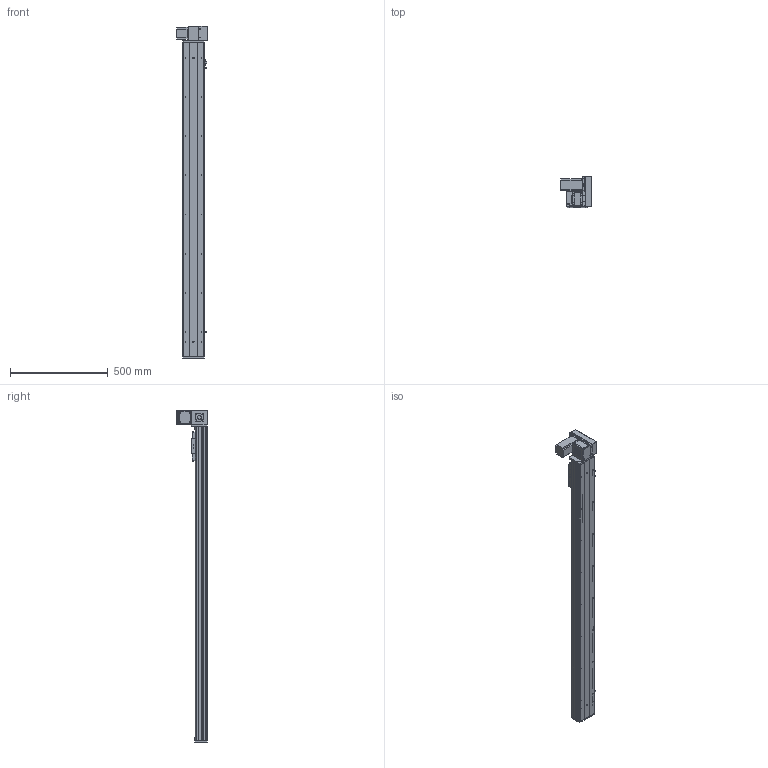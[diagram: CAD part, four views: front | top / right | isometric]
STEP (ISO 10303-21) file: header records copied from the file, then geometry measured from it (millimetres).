
FILE_DESCRIPTION (( 'STEP AP203' ), '1' );
FILE_NAME ('Y10CB-D90-S1350-UR-P400W.STEP', '2020-02-16T03:45:58', ( '微软用户' ), ( '微软中国' ), 'SwSTEP 2.0', 'SolidWorks 2017', '' );
FILE_SCHEMA (( 'CONFIG_CONTROL_DESIGN' ));
Length unit declared in the file: millimetre
Products named in the file (18): 10CB9-掛极; Y10B-々湍喘謫眊楊擘啣--; 10CB-耜裔; 0B-萇儂楊擘啣; Y135C-陔俋离換覜結え-; san松下电机400不带刹车----; Y100-135俋离換覜ん--; 0B-源倛裔啣; Y10B--々湍喘謫眊--666; Y10CB-D90-S1350-UR-P400W; 0B-埴倛裔啣; Y10B-耜蚾蟀諉啣----; 10CB-詩湍-; 00B-俋欶BM--; Y10CB- 掛极耜裔啣-毀---; 0CB-雄赽釱---; Y10C---詩湍揤啣; 0Cb-俋欶---
Assembly tree (21 placements, depth 2):
  Y10CB-D90-S1350-UR-P400W
    0CB-雄赽釱---
    0Cb-俋欶---
    Y10B-々湍喘謫眊楊擘啣--
    0B-萇儂楊擘啣
    san松下电机400不带刹车----
    0B-源倛裔啣
    0B-埴倛裔啣
    10CB-詩湍-
    Y10CB- 掛极耜裔啣-毀---  x2
    Y10C---詩湍揤啣  x2
    10CB9-掛极
    10CB-耜裔
    Y135C-陔俋离換覜結え-
    Y100-135俋离換覜ん--  x3
    Y10B--々湍喘謫眊--666
    Y10B-耜蚾蟀諉啣----
    00B-俋欶BM--
Bounding box: 157 x 155.5 x 1696 mm (x, y, z)
Volume: 3746515.7 mm3; surface area: 1719764.1 mm2
Topology: 21 solids, 21 shells, 1014 faces, 2723 edges, 1778 vertices
Faces by surface type: cylinder 509, plane 481, cone 24
Entity records: 31912 total; most frequent: CARTESIAN_POINT 5765, DIRECTION 5134, ORIENTED_EDGE 4916, EDGE_CURVE 2458, AXIS2_PLACEMENT_3D 1837, VERTEX_POINT 1604, VECTOR 1460, LINE 1460
